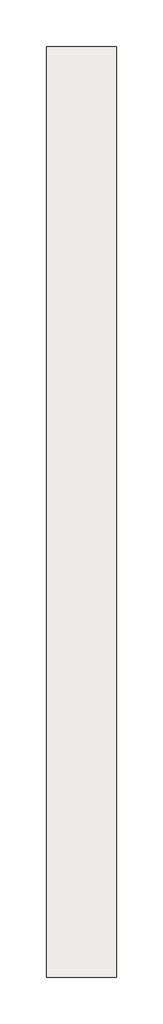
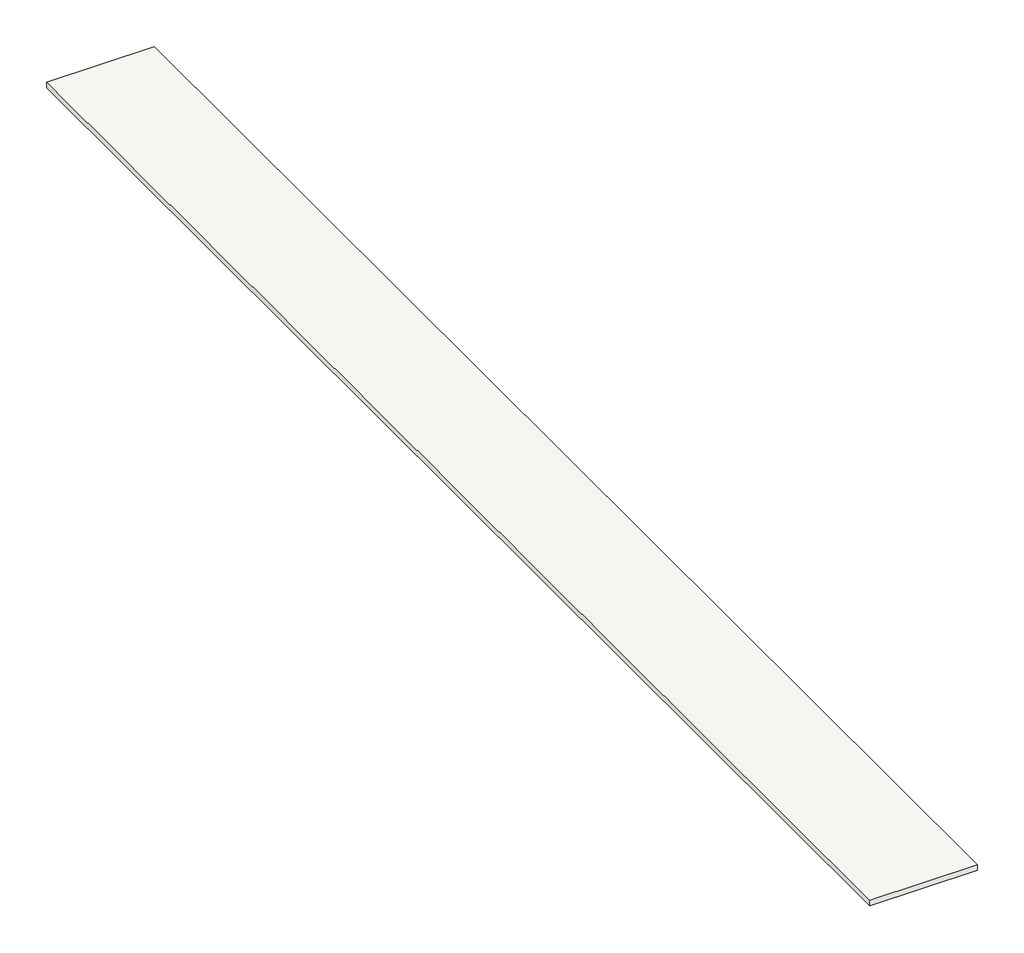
# One storey: 1 slab.
"""IFC4 building model written with IfcOpenShell, lengths in millimetres."""

from ifc_helpers import new_model, si_unit, frame, origin, place, context, project, spatial, polyline, outline, extrude, element, save

model = new_model("IFC4")

# Units and contexts
model_context = context("Model", 3, world=origin())
ifc_project = project(units=[si_unit("LENGTHUNIT", "METRE", prefix="MILLI")], contexts=[model_context])

# Site, building, storey
site = spatial("IfcSite", under=ifc_project)
building = spatial("IfcBuilding", under=site)
storey = spatial("IfcBuildingStorey", under=building, Name="Platibanda 01-IMPERMEABILIZAÇÃO", Elevation=57300.0)

# Slab
placement = place(None, origin())
element("IfcSlab", 1, ObjectType="Lajes de cobertura ou terraço", at=placement, inside=storey, context=model_context, shape_type="SweptSolid", body=[
    extrude(outline(polyline([(24332.0605113, -16744.6176009), (23012.6530917, -16744.6176009), (23012.6530917, 764.3823991), (24332.0605113, 764.3823991), (24332.0605113, -16744.6176009)])), frame((0.0, 0.0, 57275.0), z_axis=(0.0, 0.0, 1.0), x_axis=(1.0, 0.0, 0.0)), (0.0, 0.0, 1.0), 75.0),
])

save(model, "model.ifc")
